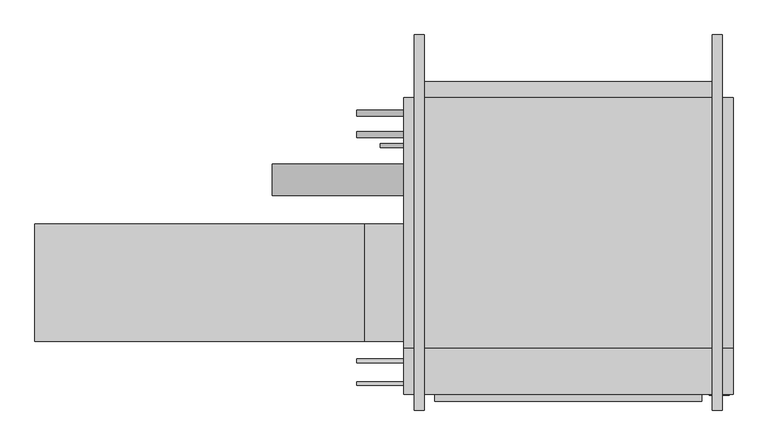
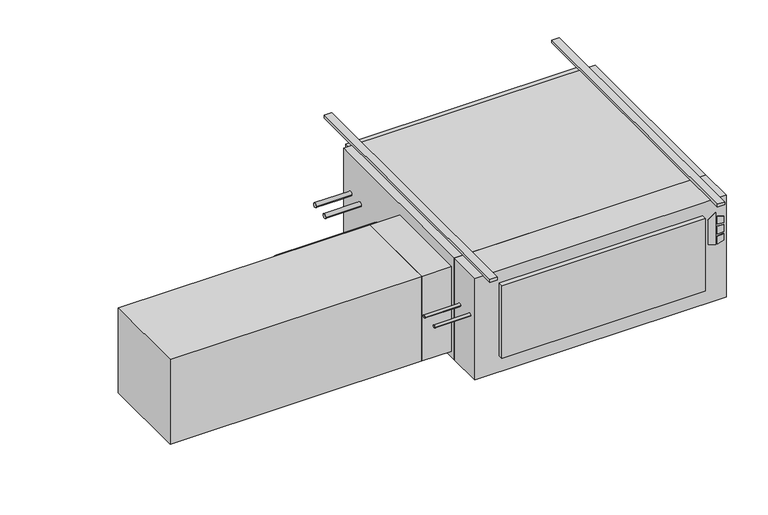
"""IFC4 building model written with IfcOpenShell, lengths in millimetres: proxy geometry."""

from ifc_helpers import new_model, si_unit, point, frame, frame_2d, origin, origin_with_axes, place, context, project, spatial, polyline, circle_curve, trimmed, segment, composite_curve, outline, extrude, source, transform, mapped, element, save


def mechanical_equipment_b090dba3(model_context):
    return source(origin(), model_context, "Body", "SweptSolid", [
        extrude(outline(polyline([(-193.2519297, 608.0868862), (-203.2, 640.2602728), (-61.0290756, 640.2602728), (-84.0510817, 608.0868862), (-193.2519297, 608.0868862)])), frame((0.0, -797.052, 0.0), z_axis=(0.0, 1.0, 0.0), x_axis=(0.0, 0.0, 1.0)), (0.0, 0.0, 1.0), 3.175),
        extrude(outline(polyline([(-114.2526443, 647.0186058), (-117.4550368, 673.1), (-88.2261958, 673.1), (-80.1617807, 647.0186058), (-114.2526443, 647.0186058)])), frame((0.0, -797.052, 0.0), z_axis=(0.0, 1.0, 0.0), x_axis=(0.0, 0.0, 1.0)), (0.0, 0.0, 1.0), 3.175),
        extrude(outline(polyline([(-166.1161712, 673.1), (-169.7816721, 647.0186058), (-203.2, 647.0186058), (-194.5657628, 673.1), (-166.1161712, 673.1)])), frame((0.0, -797.052, 0.0), z_axis=(0.0, 1.0, 0.0), x_axis=(0.0, 0.0, 1.0)), (0.0, 0.0, 1.0), 3.175),
        extrude(outline(polyline([(-126.8010097, 673.1), (-124.5191834, 647.0186058), (-160.4567319, 647.0186058), (-157.7154669, 673.1), (-126.8010097, 673.1)])), frame((0.0, -797.052, 0.0), z_axis=(0.0, 1.0, 0.0), x_axis=(0.0, 0.0, 1.0)), (0.0, 0.0, 1.0), 3.175),
        extrude(outline(polyline([(685.8, -793.877), (-381.0, -793.877), (-381.0, -644.525), (685.8, -644.525), (685.8, -793.877)])), frame((0.0, 0.0, -457.2), z_axis=(0.0, 0.0, 1.0), x_axis=(1.0, 0.0, 0.0)), (0.0, 0.0, 1.0), 457.2),
        extrude(outline(polyline([(584.2, -816.229), (-279.4, -816.229), (-279.4, -793.877), (584.2, -793.877), (584.2, -816.229)])), frame((0.0, 0.0, -381.0), z_axis=(0.0, 0.0, 1.0), x_axis=(1.0, 0.0, 0.0)), (0.0, 0.0, 1.0), 323.85),
        extrude(outline(polyline([(-1574.8, -622.3), (-1574.8, -241.3), (-508.0, -241.3), (-508.0, -622.3), (-1574.8, -622.3)])), frame((0.0, 0.0, -431.8), z_axis=(0.0, 0.0, 1.0), x_axis=(1.0, 0.0, 0.0)), (0.0, 0.0, 1.0), 381.0),
        extrude(outline(polyline([(-381.0, -241.3), (-381.0, -622.3), (-508.0, -622.3), (-508.0, -241.3), (-381.0, -241.3)])), frame((0.0, 0.0, -431.8), z_axis=(0.0, 0.0, 1.0), x_axis=(1.0, 0.0, 0.0)), (0.0, 0.0, 1.0), 381.0),
        extrude(outline(composite_curve([segment(trimmed(circle_curve(frame_2d((-758.825, -184.15)), 6.35), [point((-765.175, -184.15))], [point((-752.475, -184.15))], False, "CARTESIAN"), True, "CONTINUOUS"), segment(trimmed(circle_curve(frame_2d((-758.825, -184.15)), 6.35), [point((-752.475, -184.15))], [point((-765.175, -184.15))], False, "CARTESIAN"), True, "CONTINUOUS")], self_intersect=False)), frame((-533.4, 0.0, 0.0), z_axis=(1.0, 0.0, 0.0), x_axis=(0.0, 1.0, 0.0)), (0.0, 0.0, 1.0), 152.4),
        extrude(outline(composite_curve([segment(trimmed(circle_curve(frame_2d((-685.8, -184.15)), 6.35), [point((-692.15, -184.15))], [point((-679.45, -184.15))], False, "CARTESIAN"), True, "CONTINUOUS"), segment(trimmed(circle_curve(frame_2d((-685.8, -184.15)), 6.35), [point((-679.45, -184.15))], [point((-692.15, -184.15))], False, "CARTESIAN"), True, "CONTINUOUS")], self_intersect=False)), frame((-533.4, 0.0, 0.0), z_axis=(1.0, 0.0, 0.0), x_axis=(0.0, 1.0, 0.0)), (0.0, 0.0, 1.0), 152.4),
        extrude(outline(composite_curve([segment(trimmed(circle_curve(frame_2d((-98.4896516, -228.6360165)), 50.8), [point((-149.2896516, -228.6360165))], [point((-47.6896516, -228.6360165))], False, "CARTESIAN"), True, "CONTINUOUS"), segment(trimmed(circle_curve(frame_2d((-98.4896516, -228.6360165)), 50.8), [point((-47.6896516, -228.6360165))], [point((-149.2896516, -228.6360165))], False, "CARTESIAN"), True, "CONTINUOUS")], self_intersect=False)), frame((-806.45, 0.0, 0.0), z_axis=(1.0, 0.0, 0.0), x_axis=(0.0, 1.0, 0.0)), (0.0, 0.0, 1.0), 425.45),
        extrude(outline(composite_curve([segment(trimmed(circle_curve(frame_2d((47.625, -177.8)), 9.525), [point((38.1, -177.8))], [point((57.15, -177.8))], False, "CARTESIAN"), True, "CONTINUOUS"), segment(trimmed(circle_curve(frame_2d((47.625, -177.8)), 9.525), [point((57.15, -177.8))], [point((38.1, -177.8))], False, "CARTESIAN"), True, "CONTINUOUS")], self_intersect=False)), frame((-533.4, 0.0, 0.0), z_axis=(1.0, 0.0, 0.0), x_axis=(0.0, 1.0, 0.0)), (0.0, 0.0, 1.0), 152.4),
        extrude(outline(composite_curve([segment(trimmed(circle_curve(frame_2d((117.475, -171.45)), 9.525), [point((107.95, -171.45))], [point((127.0, -171.45))], False, "CARTESIAN"), True, "CONTINUOUS"), segment(trimmed(circle_curve(frame_2d((117.475, -171.45)), 9.525), [point((127.0, -171.45))], [point((107.95, -171.45))], False, "CARTESIAN"), True, "CONTINUOUS")], self_intersect=False)), frame((-533.4, 0.0, 0.0), z_axis=(1.0, 0.0, 0.0), x_axis=(0.0, 1.0, 0.0)), (0.0, 0.0, 1.0), 152.4),
        extrude(outline(composite_curve([segment(trimmed(circle_curve(frame_2d((12.7, -409.575)), 6.35), [point((6.35, -409.575))], [point((19.05, -409.575))], False, "CARTESIAN"), True, "CONTINUOUS"), segment(trimmed(circle_curve(frame_2d((12.7, -409.575)), 6.35), [point((19.05, -409.575))], [point((6.35, -409.575))], False, "CARTESIAN"), True, "CONTINUOUS")], self_intersect=False)), frame((-457.2, 0.0, 0.0), z_axis=(1.0, 0.0, 0.0), x_axis=(0.0, 1.0, 0.0)), (0.0, 0.0, 1.0), 76.2),
        extrude(outline(polyline([(685.8, 168.275), (685.8, -644.525), (-381.0, -644.525), (-381.0, 168.275), (685.8, 168.275)])), frame((0.0, 0.0, -457.2), z_axis=(0.0, 0.0, 1.0), x_axis=(1.0, 0.0, 0.0)), (0.0, 0.0, 1.0), 457.2),
        extrude(outline(polyline([(-342.9, 219.075), (647.7, 219.075), (647.7, 168.275), (-342.9, 168.275), (-342.9, 219.075)])), frame((0.0, 0.0, -381.0), z_axis=(0.0, 0.0, 1.0), x_axis=(1.0, 0.0, 0.0)), (0.0, 0.0, 1.0), 355.6),
        extrude(outline(polyline([(-314.325, 371.475), (-314.325, -844.677), (-346.075, -844.677), (-346.075, 371.475), (-314.325, 371.475)])), origin_with_axes(), (0.0, 0.0, 1.0), 12.7),
        extrude(outline(polyline([(650.875, 371.475), (650.875, -844.677), (619.125, -844.677), (619.125, 371.475), (650.875, 371.475)])), origin_with_axes(), (0.0, 0.0, 1.0), 12.7),
    ])


if __name__ == "__main__":
    model = new_model("IFC4")
    model_context = context("Model", 3, world=origin())
    ifc_project = project(units=[si_unit("LENGTHUNIT", "METRE", prefix="MILLI")], contexts=[model_context])
    site = spatial("IfcSite", under=ifc_project)
    building = spatial("IfcBuilding", under=site)
    placement = place(None, origin())
    mechanical_equipment_shape = mechanical_equipment_b090dba3(model_context)
    element("IfcBuildingElementProxy", 1, Name="High_Capacity_Horizontal_Cabinet_Fan_Coil_Unit_-_HTY_-_IEC_-_4-Pipe_LH Side_2022 : Size 14 - 115v/60Hz/1Ph - 4/1 Coil - 4\" AirIn", ObjectType="High_Capacity_Horizontal_Cabinet_Fan_Coil_Unit_-_HTY_-_IEC_-_4-Pipe_LH Side_2022 : Size 14 - 115v/60Hz/1Ph - 4/1 Coil - 4\" AirIn", at=placement, inside=building, context=model_context, shape_type="MappedRepresentation", body=[
        mapped(mechanical_equipment_shape, transform((0.0, 0.0, 0.0), x_axis=(1.0, 0.0, 0.0), y_axis=(0.0, 1.0, 0.0), z_axis=(0.0, 0.0, 1.0))),
    ])
    save(model, "model.ifc")
